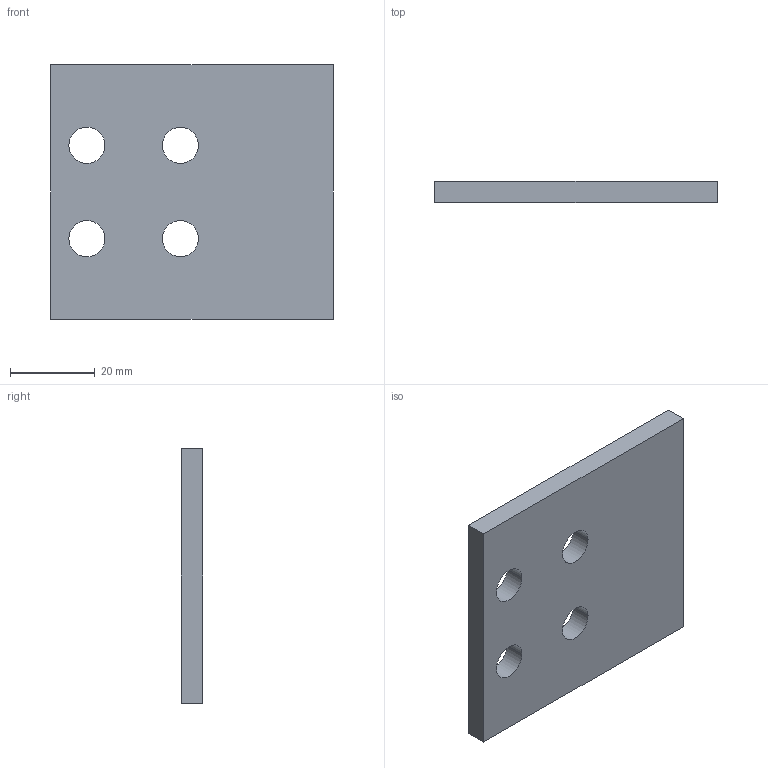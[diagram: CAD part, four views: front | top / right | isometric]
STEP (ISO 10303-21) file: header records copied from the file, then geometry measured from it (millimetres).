
FILE_DESCRIPTION( ( '' ), '1' );
FILE_NAME( 'E:/04 嬴檜蠱滌/0404 ZIMMER/040414 ZIMMER CAD download/Adapt plate/PLK for LKP, LKPS/PLK30-5.stp', '2020-04-16T10:19:50', ( '' ), ( '' ), ' ', ' ', ' ' );
FILE_SCHEMA( ( 'automotive_design' ) );
Length unit declared in the file: millimetre
Products named in the file (1): 1
Bounding box: 66.5 x 5 x 60 mm (x, y, z)
Volume: 18815.1 mm3; surface area: 9325.1 mm2
Topology: 1 solids, 1 shells, 14 faces, 36 edges, 24 vertices
Faces by surface type: cylinder 8, plane 6
Entity records: 888 total; most frequent: DIRECTION 82, STYLED_ITEM 75, PRESENTATION_STYLE_ASSIGNMENT 75, CARTESIAN_POINT 75, COLOUR_RGB 75, ORIENTED_EDGE 72, EDGE_CURVE 36, CURVE_STYLE 36
